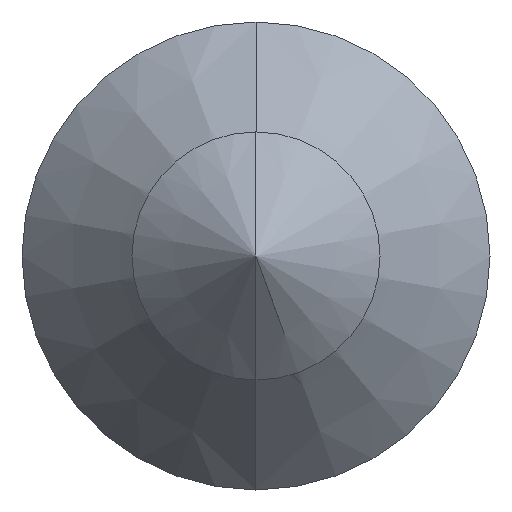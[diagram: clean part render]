
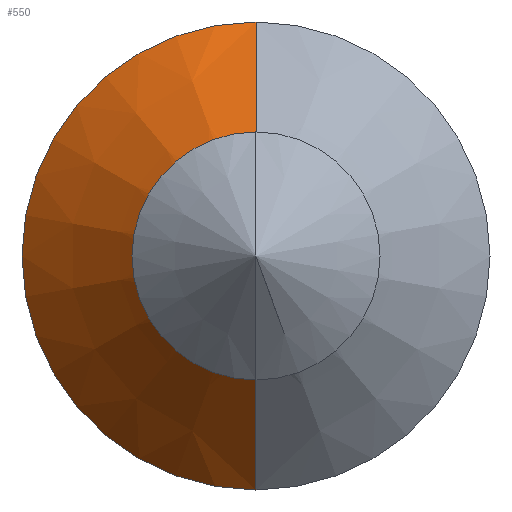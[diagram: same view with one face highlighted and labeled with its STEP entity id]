
A CAD part, left-side view. The second image highlights one B-rep face of the part: STEP entity #550.
In plain terms, the highlighted conical face has half-angle 42.839 degrees and reference radius 2.075 mm.
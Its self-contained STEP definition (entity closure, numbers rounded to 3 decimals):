
#1 = EDGE_LOOP ( 'NONE', ( #1199, #1084, #771, #577 ) ) ;
#11 = CONICAL_SURFACE ( 'NONE', #135, 2.075, 0.748 ) ;
#56 = EDGE_CURVE ( 'NONE', #748, #853, #1407, .T. ) ;
#95 = CARTESIAN_POINT ( 'NONE',  ( -9.02, 0., 0.8 ) ) ;
#135 = AXIS2_PLACEMENT_3D ( 'NONE', #270, #267, #274 ) ;
#168 = DIRECTION ( 'NONE',  ( 0.733, 0., -0.68 ) ) ;
#244 = DIRECTION ( 'NONE',  ( -1., 0., 0. ) ) ;
#267 = DIRECTION ( 'NONE',  ( 1., 0., 0. ) ) ;
#270 = CARTESIAN_POINT ( 'NONE',  ( -7.645, 0., 0. ) ) ;
#271 = CARTESIAN_POINT ( 'NONE',  ( -7.645, 0., 2.075 ) ) ;
#274 = DIRECTION ( 'NONE',  ( 0., 0., -1. ) ) ;
#306 = CIRCLE ( 'NONE', #338, 2.075 ) ;
#338 = AXIS2_PLACEMENT_3D ( 'NONE', #1170, #244, #631 ) ;
#537 = DIRECTION ( 'NONE',  ( 0., 0., 1. ) ) ;
#540 = CARTESIAN_POINT ( 'NONE',  ( -7.645, 0., -2.075 ) ) ;
#550 = ADVANCED_FACE ( 'NONE', ( #1220 ), #11, .T. ) ;
#577 = ORIENTED_EDGE ( 'NONE', *, *, #56, .F. ) ;
#631 = DIRECTION ( 'NONE',  ( 0., 0., 1. ) ) ;
#660 = VECTOR ( 'NONE', #663, 1000. ) ;
#663 = DIRECTION ( 'NONE',  ( 0.733, 0., 0.68 ) ) ;
#738 = DIRECTION ( 'NONE',  ( -1., 0., 0. ) ) ;
#748 = VERTEX_POINT ( 'NONE', #957 ) ;
#771 = ORIENTED_EDGE ( 'NONE', *, *, #854, .T. ) ;
#780 = CIRCLE ( 'NONE', #981, 0.8 ) ;
#853 = VERTEX_POINT ( 'NONE', #540 ) ;
#854 = EDGE_CURVE ( 'NONE', #1117, #853, #306, .T. ) ;
#951 = EDGE_CURVE ( 'NONE', #1098, #1117, #960, .T. ) ;
#957 = CARTESIAN_POINT ( 'NONE',  ( -9.02, 0., -0.8 ) ) ;
#960 = LINE ( 'NONE', #271, #660 ) ;
#981 = AXIS2_PLACEMENT_3D ( 'NONE', #1040, #738, #537 ) ;
#1040 = CARTESIAN_POINT ( 'NONE',  ( -9.02, 0., 0. ) ) ;
#1084 = ORIENTED_EDGE ( 'NONE', *, *, #951, .T. ) ;
#1087 = EDGE_CURVE ( 'NONE', #1098, #748, #780, .T. ) ;
#1098 = VERTEX_POINT ( 'NONE', #95 ) ;
#1117 = VERTEX_POINT ( 'NONE', #1120 ) ;
#1119 = VECTOR ( 'NONE', #168, 1000. ) ;
#1120 = CARTESIAN_POINT ( 'NONE',  ( -7.645, 0., 2.075 ) ) ;
#1170 = CARTESIAN_POINT ( 'NONE',  ( -7.645, 0., 0. ) ) ;
#1199 = ORIENTED_EDGE ( 'NONE', *, *, #1087, .F. ) ;
#1220 = FACE_OUTER_BOUND ( 'NONE', #1, .T. ) ;
#1407 = LINE ( 'NONE', #1448, #1119 ) ;
#1448 = CARTESIAN_POINT ( 'NONE',  ( -7.645, 0., -2.075 ) ) ;
